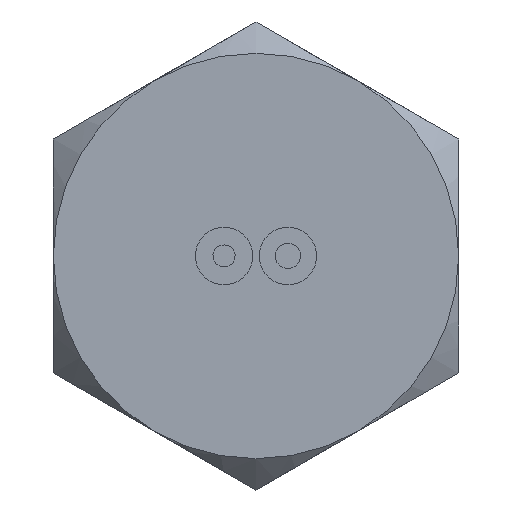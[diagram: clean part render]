
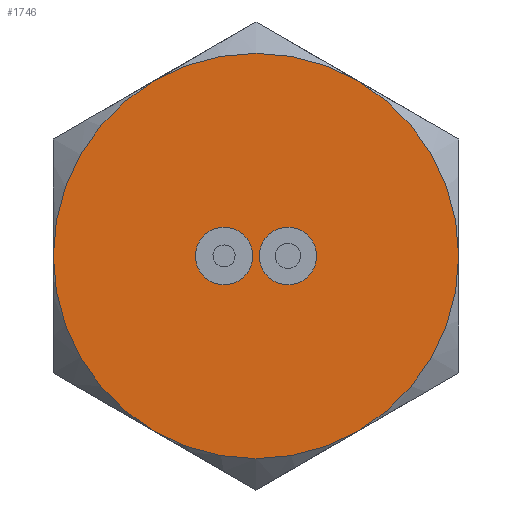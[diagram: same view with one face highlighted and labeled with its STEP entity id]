
A CAD part, left-side view. The second image highlights one B-rep face of the part: STEP entity #1746.
In plain terms, the highlighted planar face has unit normal (-1, 0, 0).
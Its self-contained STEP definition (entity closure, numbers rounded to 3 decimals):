
#70 = CIRCLE ( 'NONE', #708, 3.175 ) ;
#113 = DIRECTION ( 'NONE',  ( 0., 0., -1. ) ) ;
#122 = CARTESIAN_POINT ( 'NONE',  ( -6.35, -0.5, 0. ) ) ;
#153 = AXIS2_PLACEMENT_3D ( 'NONE', #884, #165, #639 ) ;
#165 = DIRECTION ( 'NONE',  ( 1., 0., 0. ) ) ;
#166 = ORIENTED_EDGE ( 'NONE', *, *, #2289, .T. ) ;
#202 = CIRCLE ( 'NONE', #1229, 3.175 ) ;
#203 = VERTEX_POINT ( 'NONE', #1349 ) ;
#248 = VERTEX_POINT ( 'NONE', #1613 ) ;
#262 = DIRECTION ( 'NONE',  ( 0., 0., -1. ) ) ;
#313 = AXIS2_PLACEMENT_3D ( 'NONE', #1425, #2363, #262 ) ;
#323 = CARTESIAN_POINT ( 'NONE',  ( -6.35, -3.175, 0. ) ) ;
#344 = CARTESIAN_POINT ( 'NONE',  ( -6.35, 0., 0. ) ) ;
#493 = PLANE ( 'NONE',  #313 ) ;
#523 = ORIENTED_EDGE ( 'NONE', *, *, #2334, .F. ) ;
#605 = CIRCLE ( 'NONE', #2168, 0.45 ) ;
#610 = EDGE_LOOP ( 'NONE', ( #1529, #523, #1325, #1803, #2490, #2407 ) ) ;
#639 = DIRECTION ( 'NONE',  ( 0., 0., -1. ) ) ;
#682 = EDGE_LOOP ( 'NONE', ( #166 ) ) ;
#689 = CIRCLE ( 'NONE', #932, 3.175 ) ;
#708 = AXIS2_PLACEMENT_3D ( 'NONE', #1247, #792, #1018 ) ;
#771 = VERTEX_POINT ( 'NONE', #323 ) ;
#792 = DIRECTION ( 'NONE',  ( 1., 0., 0. ) ) ;
#793 = CIRCLE ( 'NONE', #1568, 3.175 ) ;
#849 = CARTESIAN_POINT ( 'NONE',  ( -6.35, -0.5, -0.45 ) ) ;
#884 = CARTESIAN_POINT ( 'NONE',  ( -6.35, 0., 0. ) ) ;
#932 = AXIS2_PLACEMENT_3D ( 'NONE', #1044, #2209, #113 ) ;
#1018 = DIRECTION ( 'NONE',  ( 0., 0., -1. ) ) ;
#1044 = CARTESIAN_POINT ( 'NONE',  ( -6.35, 0., 0. ) ) ;
#1046 = CARTESIAN_POINT ( 'NONE',  ( -6.35, 0., 0. ) ) ;
#1101 = VERTEX_POINT ( 'NONE', #1331 ) ;
#1105 = EDGE_CURVE ( 'NONE', #1163, #1427, #689, .T. ) ;
#1163 = VERTEX_POINT ( 'NONE', #1792 ) ;
#1204 = EDGE_CURVE ( 'NONE', #1101, #1101, #605, .T. ) ;
#1229 = AXIS2_PLACEMENT_3D ( 'NONE', #1541, #1311, #2003 ) ;
#1247 = CARTESIAN_POINT ( 'NONE',  ( -6.35, 0., 0. ) ) ;
#1311 = DIRECTION ( 'NONE',  ( 1., 0., 0. ) ) ;
#1325 = ORIENTED_EDGE ( 'NONE', *, *, #2251, .F. ) ;
#1331 = CARTESIAN_POINT ( 'NONE',  ( -6.35, 0.5, -0.45 ) ) ;
#1349 = CARTESIAN_POINT ( 'NONE',  ( -6.35, 1.588, -2.75 ) ) ;
#1425 = CARTESIAN_POINT ( 'NONE',  ( -6.35, 0., 0. ) ) ;
#1427 = VERTEX_POINT ( 'NONE', #2130 ) ;
#1471 = AXIS2_PLACEMENT_3D ( 'NONE', #344, #2637, #2683 ) ;
#1529 = ORIENTED_EDGE ( 'NONE', *, *, #2923, .F. ) ;
#1541 = CARTESIAN_POINT ( 'NONE',  ( -6.35, 0., 0. ) ) ;
#1568 = AXIS2_PLACEMENT_3D ( 'NONE', #1046, #2195, #2913 ) ;
#1613 = CARTESIAN_POINT ( 'NONE',  ( -6.35, 3.175, 0. ) ) ;
#1657 = FACE_BOUND ( 'NONE', #682, .T. ) ;
#1671 = FACE_BOUND ( 'NONE', #2019, .T. ) ;
#1746 = ADVANCED_FACE ( 'NONE', ( #1657, #1671, #2589 ), #493, .F. ) ;
#1792 = CARTESIAN_POINT ( 'NONE',  ( -6.35, 1.588, 2.75 ) ) ;
#1803 = ORIENTED_EDGE ( 'NONE', *, *, #1105, .F. ) ;
#1976 = EDGE_CURVE ( 'NONE', #203, #248, #70, .T. ) ;
#2003 = DIRECTION ( 'NONE',  ( 0., 0., -1. ) ) ;
#2014 = CIRCLE ( 'NONE', #1471, 3.175 ) ;
#2019 = EDGE_LOOP ( 'NONE', ( #2838 ) ) ;
#2130 = CARTESIAN_POINT ( 'NONE',  ( -6.35, -1.587, 2.75 ) ) ;
#2156 = AXIS2_PLACEMENT_3D ( 'NONE', #122, #2945, #2246 ) ;
#2168 = AXIS2_PLACEMENT_3D ( 'NONE', #2981, #2753, #2950 ) ;
#2195 = DIRECTION ( 'NONE',  ( 1., 0., 0. ) ) ;
#2209 = DIRECTION ( 'NONE',  ( 1., 0., 0. ) ) ;
#2246 = DIRECTION ( 'NONE',  ( 0., 0., -1. ) ) ;
#2251 = EDGE_CURVE ( 'NONE', #1427, #771, #2693, .T. ) ;
#2289 = EDGE_CURVE ( 'NONE', #2967, #2967, #2937, .T. ) ;
#2334 = EDGE_CURVE ( 'NONE', #771, #2976, #202, .T. ) ;
#2363 = DIRECTION ( 'NONE',  ( 1., 0., 0. ) ) ;
#2407 = ORIENTED_EDGE ( 'NONE', *, *, #1976, .F. ) ;
#2490 = ORIENTED_EDGE ( 'NONE', *, *, #2700, .F. ) ;
#2589 = FACE_OUTER_BOUND ( 'NONE', #610, .T. ) ;
#2637 = DIRECTION ( 'NONE',  ( 1., 0., 0. ) ) ;
#2683 = DIRECTION ( 'NONE',  ( 0., 0., -1. ) ) ;
#2693 = CIRCLE ( 'NONE', #153, 3.175 ) ;
#2697 = CARTESIAN_POINT ( 'NONE',  ( -6.35, -1.587, -2.75 ) ) ;
#2700 = EDGE_CURVE ( 'NONE', #248, #1163, #2014, .T. ) ;
#2753 = DIRECTION ( 'NONE',  ( 1., 0., 0. ) ) ;
#2838 = ORIENTED_EDGE ( 'NONE', *, *, #1204, .T. ) ;
#2913 = DIRECTION ( 'NONE',  ( 0., 0., -1. ) ) ;
#2923 = EDGE_CURVE ( 'NONE', #2976, #203, #793, .T. ) ;
#2937 = CIRCLE ( 'NONE', #2156, 0.45 ) ;
#2945 = DIRECTION ( 'NONE',  ( 1., 0., 0. ) ) ;
#2950 = DIRECTION ( 'NONE',  ( 0., 0., -1. ) ) ;
#2967 = VERTEX_POINT ( 'NONE', #849 ) ;
#2976 = VERTEX_POINT ( 'NONE', #2697 ) ;
#2981 = CARTESIAN_POINT ( 'NONE',  ( -6.35, 0.5, 0. ) ) ;
